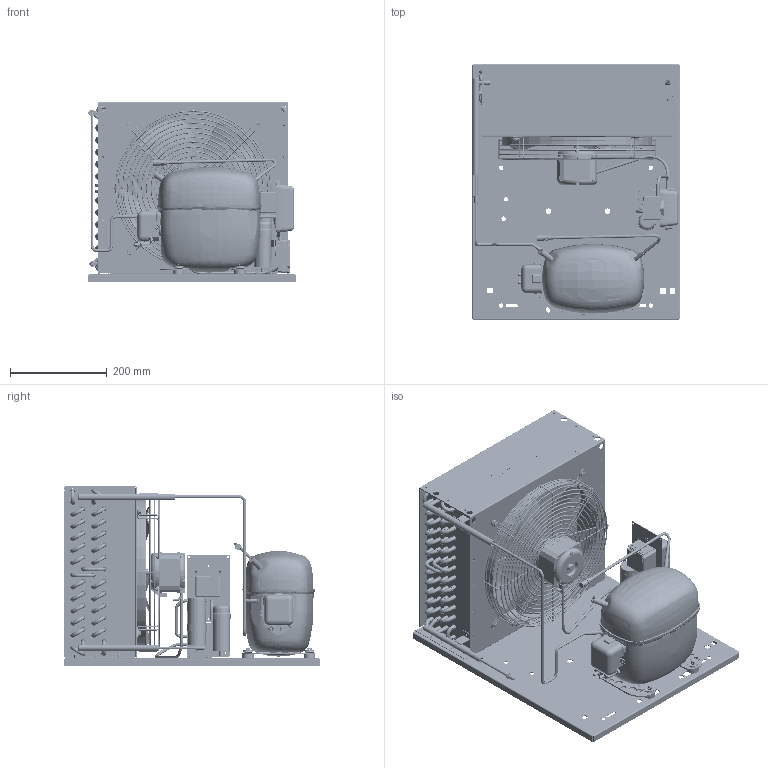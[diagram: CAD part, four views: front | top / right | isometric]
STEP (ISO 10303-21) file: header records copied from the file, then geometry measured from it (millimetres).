
FILE_DESCRIPTION(/* description */ ('Unknown'),/* implementation_level */ '2;1');
FILE_NAME(/* name */ '2298-0026',/* time_stamp */ '2021-12-15T15:07:50+01:00',/* author */ ('Unknown'),/* organization */ ('Unknown'),/* preprocessor_version */ 'ST-DEVELOPER v16.7',/* originating_system */ 'Solid Edge',/* authorisation */ 'Unknown');
FILE_SCHEMA (('AUTOMOTIVE_DESIGN {1 0 10303 214 3 1 1}'));
Products named in the file (63): 2298-0026; 92505125; 1440350c70; r50119606; r50119607; r50119601; r50000909; 2990210; r59700398; r50118004; r50115605; 84dm6x8xxxxgabf00; 84dm6x8xxxxgabf00_02; 84dm6x8xxxxgabf00_01; r50000850; 2990361; NET3T16PVN018; G30035; G30035_01; G30035_02; G30035_04; G30035_03; a300-19; a300-19_costruzione_oa_0; a300-19_costruzione_oa_1; a300-19_costruzione_oa_2; a300-19_costruzione_oa_3; a300-19_costruzione_oa_4; sc18cl-a-csr_Large_el; sc18cl-a-csr_TRM_SRF; sc18cl-a-csr_TRM_SRF_0; sc18cl-a-csr_TRM_SRF_1; sc18cl-a-csr_TRM_SRF_2; sc18cl-a-csr_TRM_SRF_3; sc18cl-a-csr_TRM_SRF_4; sc18cl-a-csr_TRM_SRF_5; sc18cl_a_csr_cavo_01; sc18cl_a_csr_cavo_02; SC18MLX.3-A-CSR; 84RM10X21XXPIAF00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
Assembly tree (145 placements, depth 4):
  2298-0026
    92505125
    1440350c70
      r50119606
      r50119607
      r50119601
      r50000909
      2990210  x24
      r59700398  x30
      r50118004
      r50115605
      84dm6x8xxxxgabf00  x4
        84dm6x8xxxxgabf00_02
        84dm6x8xxxxgabf00_01
      r50000850  x2
      2990361  x2
    NET3T16PVN018
    G30035
      G30035_01
      G30035_02  x4
      G30035_04  x4
      G30035_03
    a300-19
      a300-19_costruzione_oa_0
      a300-19_costruzione_oa_1
      a300-19_costruzione_oa_2
      a300-19_costruzione_oa_3
      a300-19_costruzione_oa_4
    sc18cl-a-csr_Large_el
      sc18cl-a-csr_TRM_SRF
      sc18cl-a-csr_TRM_SRF_0
      sc18cl-a-csr_TRM_SRF_1
      sc18cl-a-csr_TRM_SRF_2
      sc18cl-a-csr_TRM_SRF_3
      sc18cl-a-csr_TRM_SRF_4
      sc18cl-a-csr_TRM_SRF_5
      sc18cl_a_csr_cavo_01
      sc18cl_a_csr_cavo_02
    SC18MLX.3-A-CSR
    84RM10X21XXPIAF00  x4
    sc18cl-a-csr_piedino  x4
    84v1.8x35xxcopf00  x4
    99540005
    670060100
    99540000
    99510248_05
      8351_2
      8392_A
      99510248_tubo_04
    84t4.8x8xxxtcca00_oa_5
    84t4.8x8xxxtcca00_oa_6
    84t4.8x8xxxtcca00_oa_7
    84t4.8x8xxxtcca00_oa_8
    84a4.2x9.5xtbcf01  x3
    84dm4x3.6xxesrf00  x4
    84fm6x14xxxtesf00  x4
    84RM6X18XXXPIAF00  x4
    84t4.8x8xxxtcca00_oa_9
    84t4.8x8xxxtcca00_oa_10
    99000082_secop
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Bounding box: 430 x 530 x 371.32 mm (x, y, z)
Volume: 11541192.7 mm3; surface area: 4230706.9 mm2
Topology: 159 solids, 159 shells, 7776 faces, 19265 edges, 12500 vertices
Faces by surface type: plane 4633, cylinder 1591, bspline 739, torus 522, cone 251, sphere 40
Full cylindrical faces by diameter (mm): 0.5 x1, 1 x1, 1.65 x2, 1.8 x20, 2.2 x4, 2.31 x6, 2.7 x43, 3 x7, 3.2 x6, 3.242 x4, 3.4 x4, 3.5 x5, 3.6 x8, 3.8 x2, 3.9 x2, 4 x46, 4.2 x12, 4.5 x27, 4.6 x5, 4.66 x4, 4.7 x6, 4.9 x1, 5 x14, 5.1 x2, 5.5 x13, 5.95 x1, 6 x25, 6.2 x2, 6.5 x10, 6.6 x3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
Entity records: 305764 total; most frequent: CARTESIAN_POINT 136971, ORIENTED_EDGE 30378, DIRECTION 24379, EDGE_CURVE 15189, VERTEX_POINT 10529, FACE_BOUND 9252, EDGE_LOOP 9237, AXIS2_PLACEMENT_3D 8850
